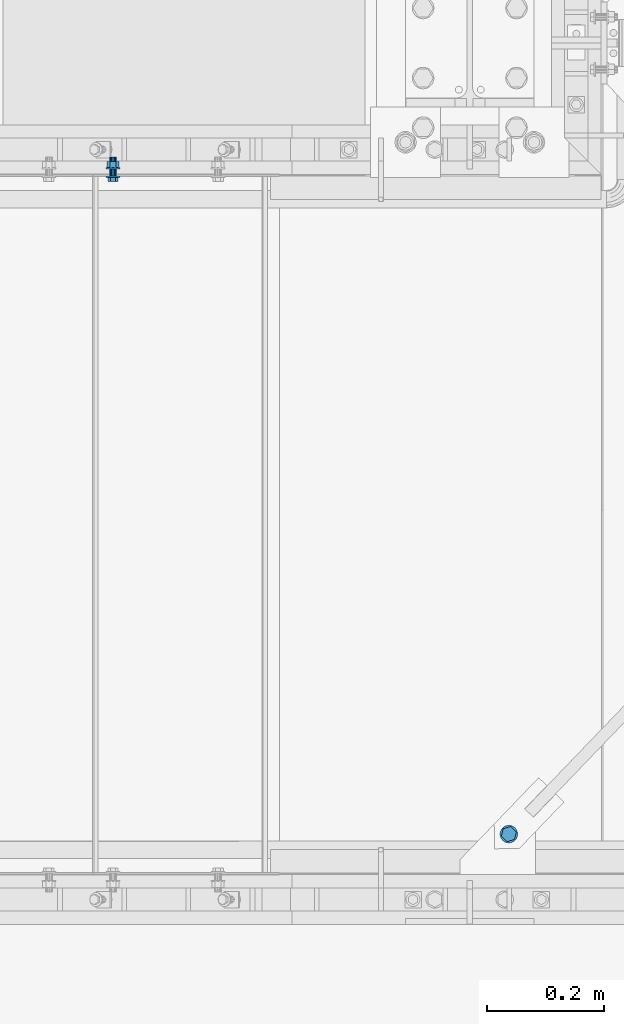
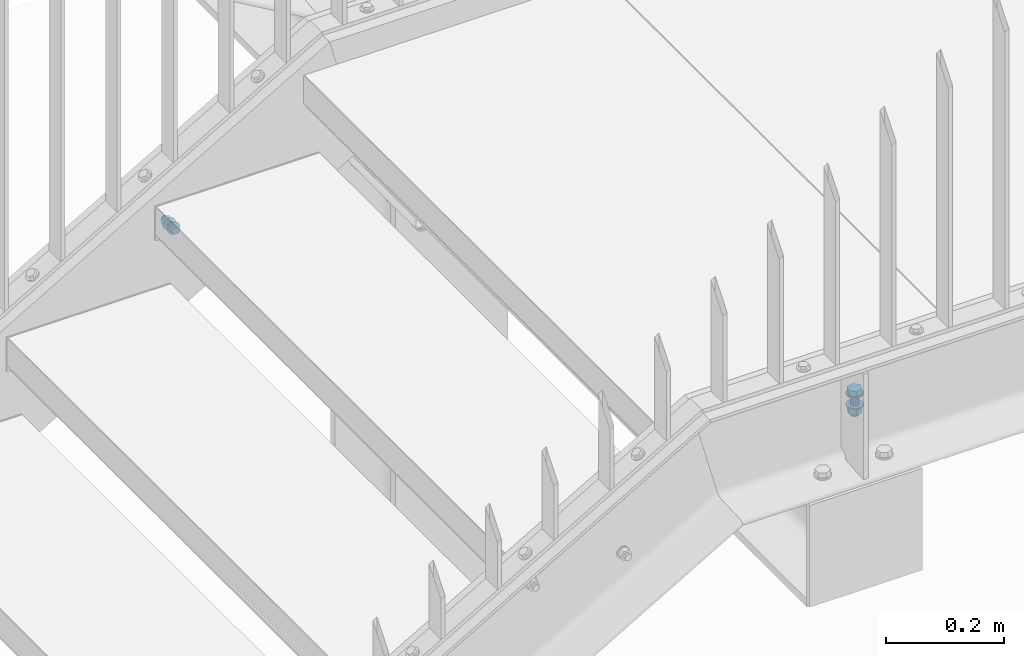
# One storey, part 99 of 145: 2 mechanical fasteners.
"""IFC2X3 building model written with IfcOpenShell, lengths in millimetres."""

from ifc_helpers import new_model, entity, si_unit, converted_unit, origin_with_axes, place, context, project, spatial, faceted_brep, element, save


model = new_model("IFC2X3")

# Units and contexts
model_context = context("Model", 3, precision=1e-09, world=origin_with_axes())
ifc_project = project(units=[si_unit("LENGTHUNIT", "METRE", prefix="MILLI"), si_unit("AREAUNIT", "SQUARE_METRE"), si_unit("VOLUMEUNIT", "CUBIC_METRE"), converted_unit("PLANEANGLEUNIT", "DEGREE", entity("IfcPlaneAngleMeasure", 0.01745329), si_unit("PLANEANGLEUNIT", "RADIAN"), dimensions=[0, 0, 0, 0, 0, 0, 0])], contexts=[model_context])

# Site, building, storey
site_placement = place(None, origin_with_axes())
site = spatial("IfcSite", under=ifc_project, at=site_placement, Name="BZ1 Grund- und Mittelschule 85716 Unterschlei?heim", CompositionType="ELEMENT")
building_placement = place(site_placement, origin_with_axes())
building = spatial("IfcBuilding", under=site, at=building_placement, Name="Struktur 1", CompositionType="ELEMENT")
storey_placement = place(building_placement, origin_with_axes())
storey = spatial("IfcBuildingStorey", under=building, at=storey_placement, Name="Default Storey", CompositionType="ELEMENT", Elevation=0.0)

# Mechanical fasteners
mechanical_fastener_1_placement = place(None, origin_with_axes())
element("IfcMechanicalFastener", 1, at=mechanical_fastener_1_placement, inside=storey, ObjectType="-", NominalDiameter=16.0, NominalLength=45.0, context=model_context, shape_type="Brep", body=[
    faceted_brep([(20267.33343177, -3061.224049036, 1443.6363644), (20267.33343177, -3061.224049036, 1446.6363644), (20265.423222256, -3058.988490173, 1446.6363644), (20265.423222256, -3058.988490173, 1443.6363644), (20263.985852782, -3056.423223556, 1446.6363644), (20263.985852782, -3056.423223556, 1443.6363644), (20263.076560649, -3053.626830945, 1446.6363644), (20263.076560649, -3053.626830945, 1443.6363644), (20262.730289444, -3050.706776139, 1446.6363644), (20262.730289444, -3050.706776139, 1443.6363644), (20262.960346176, -3047.775275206, 1446.6363644), (20262.960346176, -3047.775275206, 1443.6363644), (20263.757889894, -3044.944984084, 1446.6363644), (20263.757889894, -3044.944984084, 1443.6363644), (20265.092271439, -3042.324669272, 1446.6363644), (20265.092271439, -3042.324669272, 1443.6363644), (20266.912211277, -3040.015028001, 1446.6363644), (20266.912211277, -3040.015028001, 1443.6363644), (20269.147770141, -3038.104818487, 1446.6363644), (20269.147770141, -3038.104818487, 1443.6363644), (20271.713036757, -3036.667449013, 1446.6363644), (20271.713036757, -3036.667449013, 1443.6363644), (20274.509429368, -3035.75815688, 1446.6363644), (20274.509429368, -3035.75815688, 1443.6363644), (20277.429484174, -3035.411885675, 1446.6363644), (20277.429484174, -3035.411885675, 1443.6363644), (20280.360985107, -3035.641942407, 1446.6363644), (20280.360985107, -3035.641942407, 1443.6363644), (20283.191276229, -3036.439486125, 1446.6363644), (20283.191276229, -3036.439486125, 1443.6363644), (20285.811591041, -3037.77386767, 1446.6363644), (20285.811591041, -3037.77386767, 1443.6363644), (20288.121232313, -3039.593807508, 1446.6363644), (20288.121232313, -3039.593807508, 1443.6363644), (20290.031441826, -3041.829366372, 1446.6363644), (20290.031441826, -3041.829366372, 1443.6363644), (20291.4688113, -3044.394632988, 1446.6363644), (20291.4688113, -3044.394632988, 1443.6363644), (20292.378103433, -3047.191025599, 1446.6363644), (20292.378103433, -3047.191025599, 1443.6363644), (20292.724374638, -3050.111080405, 1446.6363644), (20292.724374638, -3050.111080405, 1443.6363644), (20292.494317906, -3053.042581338, 1446.6363644), (20292.494317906, -3053.042581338, 1443.6363644), (20291.696774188, -3055.87287246, 1446.6363644), (20291.696774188, -3055.87287246, 1443.6363644), (20290.362392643, -3058.493187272, 1446.6363644), (20290.362392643, -3058.493187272, 1443.6363644), (20288.542452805, -3060.802828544, 1446.6363644), (20288.542452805, -3060.802828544, 1443.6363644), (20286.306893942, -3062.713038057, 1446.6363644), (20286.306893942, -3062.713038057, 1443.6363644), (20283.741627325, -3064.150407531, 1446.6363644), (20283.741627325, -3064.150407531, 1443.6363644), (20280.945234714, -3065.059699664, 1446.6363644), (20280.945234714, -3065.059699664, 1443.6363644), (20278.025179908, -3065.405970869, 1446.6363644), (20278.025179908, -3065.405970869, 1443.6363644), (20275.093678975, -3065.175914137, 1446.6363644), (20275.093678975, -3065.175914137, 1443.6363644), (20272.263387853, -3064.378370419, 1446.6363644), (20272.263387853, -3064.378370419, 1443.6363644), (20269.643073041, -3063.043988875, 1446.6363644), (20269.643073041, -3063.043988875, 1443.6363644)], [[[0, 1, 2, 3]], [[3, 2, 4, 5]], [[5, 4, 6, 7]], [[7, 6, 8, 9]], [[9, 8, 10, 11]], [[11, 10, 12, 13]], [[13, 12, 14, 15]], [[15, 14, 16, 17]], [[17, 16, 18, 19]], [[19, 18, 20, 21]], [[21, 20, 22, 23]], [[23, 22, 24, 25]], [[25, 24, 26, 27]], [[27, 26, 28, 29]], [[29, 28, 30, 31]], [[31, 30, 32, 33]], [[33, 32, 34, 35]], [[35, 34, 36, 37]], [[37, 36, 38, 39]], [[39, 38, 40, 41]], [[41, 40, 42, 43]], [[43, 42, 44, 45]], [[45, 44, 46, 47]], [[47, 46, 48, 49]], [[49, 48, 50, 51]], [[51, 50, 52, 53]], [[53, 52, 54, 55]], [[55, 54, 56, 57]], [[57, 56, 58, 59]], [[59, 58, 60, 61]], [[61, 60, 62, 63]], [[63, 62, 1, 0]], [[2, 1, 62, 60, 58, 56, 54, 52, 50, 48, 46, 44, 42, 40, 38, 36, 34, 32, 30, 28, 26, 24, 22, 20, 18, 16, 14, 12, 10, 8, 6, 4]], [[63, 0, 3, 5, 7, 9, 11, 13, 15, 17, 19, 21, 23, 25, 27, 29, 31, 33, 35, 37, 39, 41, 43, 45, 47, 49, 51, 53, 55, 57, 59, 61]]]),
    faceted_brep([(20280.931822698, -3037.423480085, 1456.6363644), (20280.931822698, -3037.423480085, 1446.6363644), (20268.08384936, -3041.141033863, 1446.6363644), (20268.08384936, -3041.141033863, 1456.6363644), (20264.879358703, -3054.126482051, 1446.6363644), (20264.879358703, -3054.126482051, 1456.6363644), (20274.522841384, -3063.39437646, 1446.6363644), (20274.522841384, -3063.39437646, 1456.6363644), (20287.370814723, -3059.676822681, 1446.6363644), (20287.370814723, -3059.676822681, 1456.6363644), (20290.575305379, -3046.691374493, 1446.6363644), (20290.575305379, -3046.691374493, 1456.6363644)], [[[0, 1, 2, 3]], [[3, 2, 4, 5]], [[5, 4, 6, 7]], [[7, 6, 8, 9]], [[9, 8, 10, 11]], [[11, 10, 1, 0]], [[3, 5, 7, 9, 11, 0]], [[2, 1, 10, 8, 6, 4]]]),
    faceted_brep([(20272.183918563, -3056.17699268, 1423.6363644), (20272.183918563, -3056.17699268, 1443.6363644), (20270.398543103, -3053.616552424, 1443.6363644), (20270.398543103, -3053.616552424, 1423.6363644), (20269.728909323, -3050.567780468, 1443.6363644), (20269.728909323, -3050.567780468, 1423.6363644), (20270.276962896, -3047.494824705, 1443.6363644), (20270.276962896, -3047.494824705, 1423.6363644), (20271.959267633, -3044.865514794, 1443.6363644), (20271.959267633, -3044.865514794, 1423.6363644), (20274.519707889, -3043.080139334, 1443.6363644), (20274.519707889, -3043.080139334, 1423.6363644), (20277.568479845, -3042.410505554, 1443.6363644), (20277.568479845, -3042.410505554, 1423.6363644), (20280.641435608, -3042.958559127, 1443.6363644), (20280.641435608, -3042.958559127, 1423.6363644), (20283.270745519, -3044.640863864, 1443.6363644), (20283.270745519, -3044.640863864, 1423.6363644), (20285.056120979, -3047.201304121, 1443.6363644), (20285.056120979, -3047.201304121, 1423.6363644), (20285.725754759, -3050.250076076, 1443.6363644), (20285.725754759, -3050.250076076, 1423.6363644), (20285.177701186, -3053.323031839, 1443.6363644), (20285.177701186, -3053.323031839, 1423.6363644), (20283.495396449, -3055.95234175, 1443.6363644), (20283.495396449, -3055.95234175, 1423.6363644), (20280.934956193, -3057.73771721, 1443.6363644), (20280.934956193, -3057.73771721, 1423.6363644), (20277.886184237, -3058.40735099, 1443.6363644), (20277.886184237, -3058.40735099, 1423.6363644), (20274.813228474, -3057.859297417, 1443.6363644), (20274.813228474, -3057.859297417, 1423.6363644)], [[[0, 1, 2, 3]], [[3, 2, 4, 5]], [[5, 4, 6, 7]], [[7, 6, 8, 9]], [[9, 8, 10, 11]], [[11, 10, 12, 13]], [[13, 12, 14, 15]], [[15, 14, 16, 17]], [[17, 16, 18, 19]], [[19, 18, 20, 21]], [[21, 20, 22, 23]], [[23, 22, 24, 25]], [[25, 24, 26, 27]], [[27, 26, 28, 29]], [[29, 28, 30, 31]], [[31, 30, 1, 0]], [[2, 1, 30, 28, 26, 24, 22, 20, 18, 16, 14, 12, 10, 8, 6, 4]], [[31, 0, 3, 5, 7, 9, 11, 13, 15, 17, 19, 21, 23, 25, 27, 29]]]),
    faceted_brep([(20267.33343177, -3061.224049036, 1420.6363644), (20267.33343177, -3061.224049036, 1423.6363644), (20265.423222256, -3058.988490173, 1423.6363644), (20265.423222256, -3058.988490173, 1420.6363644), (20263.985852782, -3056.423223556, 1423.6363644), (20263.985852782, -3056.423223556, 1420.6363644), (20263.076560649, -3053.626830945, 1423.6363644), (20263.076560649, -3053.626830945, 1420.6363644), (20262.730289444, -3050.706776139, 1423.6363644), (20262.730289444, -3050.706776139, 1420.6363644), (20262.960346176, -3047.775275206, 1423.6363644), (20262.960346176, -3047.775275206, 1420.6363644), (20263.757889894, -3044.944984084, 1423.6363644), (20263.757889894, -3044.944984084, 1420.6363644), (20265.092271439, -3042.324669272, 1423.6363644), (20265.092271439, -3042.324669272, 1420.6363644), (20266.912211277, -3040.015028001, 1423.6363644), (20266.912211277, -3040.015028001, 1420.6363644), (20269.147770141, -3038.104818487, 1423.6363644), (20269.147770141, -3038.104818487, 1420.6363644), (20271.713036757, -3036.667449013, 1423.6363644), (20271.713036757, -3036.667449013, 1420.6363644), (20274.509429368, -3035.75815688, 1423.6363644), (20274.509429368, -3035.75815688, 1420.6363644), (20277.429484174, -3035.411885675, 1423.6363644), (20277.429484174, -3035.411885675, 1420.6363644), (20280.360985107, -3035.641942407, 1423.6363644), (20280.360985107, -3035.641942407, 1420.6363644), (20283.191276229, -3036.439486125, 1423.6363644), (20283.191276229, -3036.439486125, 1420.6363644), (20285.811591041, -3037.77386767, 1423.6363644), (20285.811591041, -3037.77386767, 1420.6363644), (20288.121232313, -3039.593807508, 1423.6363644), (20288.121232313, -3039.593807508, 1420.6363644), (20290.031441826, -3041.829366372, 1423.6363644), (20290.031441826, -3041.829366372, 1420.6363644), (20291.4688113, -3044.394632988, 1423.6363644), (20291.4688113, -3044.394632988, 1420.6363644), (20292.378103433, -3047.191025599, 1423.6363644), (20292.378103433, -3047.191025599, 1420.6363644), (20292.724374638, -3050.111080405, 1423.6363644), (20292.724374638, -3050.111080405, 1420.6363644), (20292.494317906, -3053.042581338, 1423.6363644), (20292.494317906, -3053.042581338, 1420.6363644), (20291.696774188, -3055.87287246, 1423.6363644), (20291.696774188, -3055.87287246, 1420.6363644), (20290.362392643, -3058.493187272, 1423.6363644), (20290.362392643, -3058.493187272, 1420.6363644), (20288.542452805, -3060.802828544, 1423.6363644), (20288.542452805, -3060.802828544, 1420.6363644), (20286.306893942, -3062.713038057, 1423.6363644), (20286.306893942, -3062.713038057, 1420.6363644), (20283.741627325, -3064.150407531, 1423.6363644), (20283.741627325, -3064.150407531, 1420.6363644), (20280.945234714, -3065.059699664, 1423.6363644), (20280.945234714, -3065.059699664, 1420.6363644), (20278.025179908, -3065.405970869, 1423.6363644), (20278.025179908, -3065.405970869, 1420.6363644), (20275.093678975, -3065.175914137, 1423.6363644), (20275.093678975, -3065.175914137, 1420.6363644), (20272.263387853, -3064.378370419, 1423.6363644), (20272.263387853, -3064.378370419, 1420.6363644), (20269.643073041, -3063.043988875, 1423.6363644), (20269.643073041, -3063.043988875, 1420.6363644)], [[[0, 1, 2, 3]], [[3, 2, 4, 5]], [[5, 4, 6, 7]], [[7, 6, 8, 9]], [[9, 8, 10, 11]], [[11, 10, 12, 13]], [[13, 12, 14, 15]], [[15, 14, 16, 17]], [[17, 16, 18, 19]], [[19, 18, 20, 21]], [[21, 20, 22, 23]], [[23, 22, 24, 25]], [[25, 24, 26, 27]], [[27, 26, 28, 29]], [[29, 28, 30, 31]], [[31, 30, 32, 33]], [[33, 32, 34, 35]], [[35, 34, 36, 37]], [[37, 36, 38, 39]], [[39, 38, 40, 41]], [[41, 40, 42, 43]], [[43, 42, 44, 45]], [[45, 44, 46, 47]], [[47, 46, 48, 49]], [[49, 48, 50, 51]], [[51, 50, 52, 53]], [[53, 52, 54, 55]], [[55, 54, 56, 57]], [[57, 56, 58, 59]], [[59, 58, 60, 61]], [[61, 60, 62, 63]], [[63, 62, 1, 0]], [[2, 1, 62, 60, 58, 56, 54, 52, 50, 48, 46, 44, 42, 40, 38, 36, 34, 32, 30, 28, 26, 24, 22, 20, 18, 16, 14, 12, 10, 8, 6, 4]], [[63, 0, 3, 5, 7, 9, 11, 13, 15, 17, 19, 21, 23, 25, 27, 29, 31, 33, 35, 37, 39, 41, 43, 45, 47, 49, 51, 53, 55, 57, 59, 61]]]),
    faceted_brep([(20280.931822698, -3037.423480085, 1420.6363644), (20280.931822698, -3037.423480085, 1407.6363644), (20268.08384936, -3041.141033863, 1407.6363644), (20268.08384936, -3041.141033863, 1420.6363644), (20264.879358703, -3054.126482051, 1407.6363644), (20264.879358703, -3054.126482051, 1420.6363644), (20274.522841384, -3063.39437646, 1407.6363644), (20274.522841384, -3063.39437646, 1420.6363644), (20287.370814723, -3059.676822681, 1407.6363644), (20287.370814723, -3059.676822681, 1420.6363644), (20290.575305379, -3046.691374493, 1407.6363644), (20290.575305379, -3046.691374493, 1420.6363644)], [[[0, 1, 2, 3]], [[3, 2, 4, 5]], [[5, 4, 6, 7]], [[7, 6, 8, 9]], [[9, 8, 10, 11]], [[11, 10, 1, 0]], [[3, 5, 7, 9, 11, 0]], [[2, 1, 10, 8, 6, 4]]]),
    faceted_brep([(20272.183918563, -3056.17699268, 1401.6363644), (20272.183918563, -3056.17699268, 1407.6363644), (20270.398543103, -3053.616552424, 1407.6363644), (20270.398543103, -3053.616552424, 1401.6363644), (20269.728909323, -3050.567780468, 1407.6363644), (20269.728909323, -3050.567780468, 1401.6363644), (20270.276962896, -3047.494824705, 1407.6363644), (20270.276962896, -3047.494824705, 1401.6363644), (20271.959267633, -3044.865514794, 1407.6363644), (20271.959267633, -3044.865514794, 1401.6363644), (20274.519707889, -3043.080139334, 1407.6363644), (20274.519707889, -3043.080139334, 1401.6363644), (20277.568479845, -3042.410505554, 1407.6363644), (20277.568479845, -3042.410505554, 1401.6363644), (20280.641435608, -3042.958559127, 1407.6363644), (20280.641435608, -3042.958559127, 1401.6363644), (20283.270745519, -3044.640863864, 1407.6363644), (20283.270745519, -3044.640863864, 1401.6363644), (20285.056120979, -3047.201304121, 1407.6363644), (20285.056120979, -3047.201304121, 1401.6363644), (20285.725754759, -3050.250076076, 1407.6363644), (20285.725754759, -3050.250076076, 1401.6363644), (20285.177701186, -3053.323031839, 1407.6363644), (20285.177701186, -3053.323031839, 1401.6363644), (20283.495396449, -3055.95234175, 1407.6363644), (20283.495396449, -3055.95234175, 1401.6363644), (20280.934956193, -3057.73771721, 1407.6363644), (20280.934956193, -3057.73771721, 1401.6363644), (20277.886184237, -3058.40735099, 1407.6363644), (20277.886184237, -3058.40735099, 1401.6363644), (20274.813228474, -3057.859297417, 1407.6363644), (20274.813228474, -3057.859297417, 1401.6363644)], [[[0, 1, 2, 3]], [[3, 2, 4, 5]], [[5, 4, 6, 7]], [[7, 6, 8, 9]], [[9, 8, 10, 11]], [[11, 10, 12, 13]], [[13, 12, 14, 15]], [[15, 14, 16, 17]], [[17, 16, 18, 19]], [[19, 18, 20, 21]], [[21, 20, 22, 23]], [[23, 22, 24, 25]], [[25, 24, 26, 27]], [[27, 26, 28, 29]], [[29, 28, 30, 31]], [[31, 30, 1, 0]], [[2, 1, 30, 28, 26, 24, 22, 20, 18, 16, 14, 12, 10, 8, 6, 4]], [[31, 0, 3, 5, 7, 9, 11, 13, 15, 17, 19, 21, 23, 25, 27, 29]]]),
])
mechanical_fastener_2_placement = place(None, origin_with_axes())
element("IfcMechanicalFastener", 2, at=mechanical_fastener_2_placement, inside=storey, ObjectType="-", NominalDiameter=12.0, NominalLength=35.0, context=model_context, shape_type="Brep", body=[
    faceted_brep([(19599.545399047, -1923.002, 1328.000000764), (19599.545399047, -1925.502, 1328.000000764), (19597.204315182, -1925.502, 1328.230577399), (19597.204315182, -1923.002, 1328.230577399), (19594.953197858, -1925.502, 1328.913446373), (19594.953197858, -1923.002, 1328.913446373), (19592.87855625, -1925.502, 1330.022365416), (19592.87855625, -1923.002, 1330.022365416), (19591.060117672, -1925.502, 1331.514719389), (19591.060117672, -1923.002, 1331.514719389), (19589.567763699, -1925.502, 1333.333157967), (19589.567763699, -1923.002, 1333.333157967), (19588.458844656, -1925.502, 1335.407799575), (19588.458844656, -1923.002, 1335.407799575), (19587.775975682, -1925.502, 1337.658916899), (19587.775975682, -1923.002, 1337.658916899), (19587.545399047, -1925.502, 1340.000000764), (19587.545399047, -1923.002, 1340.000000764), (19587.775975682, -1925.502, 1342.341084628), (19587.775975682, -1923.002, 1342.341084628), (19588.458844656, -1925.502, 1344.592201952), (19588.458844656, -1923.002, 1344.592201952), (19589.567763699, -1925.502, 1346.66684356), (19589.567763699, -1923.002, 1346.66684356), (19591.060117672, -1925.502, 1348.485282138), (19591.060117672, -1923.002, 1348.485282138), (19592.87855625, -1925.502, 1349.977636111), (19592.87855625, -1923.002, 1349.977636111), (19594.953197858, -1925.502, 1351.086555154), (19594.953197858, -1923.002, 1351.086555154), (19597.204315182, -1925.502, 1351.769424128), (19597.204315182, -1923.002, 1351.769424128), (19599.545399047, -1925.502, 1352.000000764), (19599.545399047, -1923.002, 1352.000000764), (19601.886482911, -1925.502, 1351.769424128), (19601.886482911, -1923.002, 1351.769424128), (19604.137600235, -1925.502, 1351.086555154), (19604.137600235, -1923.002, 1351.086555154), (19606.212241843, -1925.502, 1349.977636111), (19606.212241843, -1923.002, 1349.977636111), (19608.030680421, -1925.502, 1348.485282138), (19608.030680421, -1923.002, 1348.485282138), (19609.523034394, -1925.502, 1346.66684356), (19609.523034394, -1923.002, 1346.66684356), (19610.631953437, -1925.502, 1344.592201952), (19610.631953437, -1923.002, 1344.592201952), (19611.314822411, -1925.502, 1342.341084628), (19611.314822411, -1923.002, 1342.341084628), (19611.545399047, -1925.502, 1340.000000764), (19611.545399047, -1923.002, 1340.000000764), (19611.314822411, -1925.502, 1337.658916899), (19611.314822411, -1923.002, 1337.658916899), (19610.631953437, -1925.502, 1335.407799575), (19610.631953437, -1923.002, 1335.407799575), (19609.523034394, -1925.502, 1333.333157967), (19609.523034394, -1923.002, 1333.333157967), (19608.030680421, -1925.502, 1331.514719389), (19608.030680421, -1923.002, 1331.514719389), (19606.212241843, -1925.502, 1330.022365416), (19606.212241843, -1923.002, 1330.022365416), (19604.137600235, -1925.502, 1328.913446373), (19604.137600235, -1923.002, 1328.913446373), (19601.886482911, -1925.502, 1328.230577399), (19601.886482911, -1923.002, 1328.230577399)], [[[0, 1, 2, 3]], [[3, 2, 4, 5]], [[5, 4, 6, 7]], [[7, 6, 8, 9]], [[9, 8, 10, 11]], [[11, 10, 12, 13]], [[13, 12, 14, 15]], [[15, 14, 16, 17]], [[17, 16, 18, 19]], [[19, 18, 20, 21]], [[21, 20, 22, 23]], [[23, 22, 24, 25]], [[25, 24, 26, 27]], [[27, 26, 28, 29]], [[29, 28, 30, 31]], [[31, 30, 32, 33]], [[33, 32, 34, 35]], [[35, 34, 36, 37]], [[37, 36, 38, 39]], [[39, 38, 40, 41]], [[41, 40, 42, 43]], [[43, 42, 44, 45]], [[45, 44, 46, 47]], [[47, 46, 48, 49]], [[49, 48, 50, 51]], [[51, 50, 52, 53]], [[53, 52, 54, 55]], [[55, 54, 56, 57]], [[57, 56, 58, 59]], [[59, 58, 60, 61]], [[61, 60, 62, 63]], [[63, 62, 1, 0]], [[2, 1, 62, 60, 58, 56, 54, 52, 50, 48, 46, 44, 42, 40, 38, 36, 34, 32, 30, 28, 26, 24, 22, 20, 18, 16, 14, 12, 10, 8, 6, 4]], [[63, 0, 3, 5, 7, 9, 11, 13, 15, 17, 19, 21, 23, 25, 27, 29, 31, 33, 35, 37, 39, 41, 43, 45, 47, 49, 51, 53, 55, 57, 59, 61]]]),
    faceted_brep([(19595.102899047, -1931.902, 1347.694636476), (19595.102899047, -1925.502, 1347.694636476), (19590.660399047, -1925.502, 1340.000000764), (19590.660399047, -1931.902, 1340.000000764), (19595.102899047, -1925.502, 1332.305365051), (19595.102899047, -1931.902, 1332.305365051), (19603.987899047, -1925.502, 1332.305365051), (19603.987899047, -1931.902, 1332.305365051), (19608.430399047, -1925.502, 1340.000000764), (19608.430399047, -1931.902, 1340.000000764), (19603.987899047, -1925.502, 1347.694636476), (19603.987899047, -1931.902, 1347.694636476)], [[[0, 1, 2, 3]], [[3, 2, 4, 5]], [[5, 4, 6, 7]], [[7, 6, 8, 9]], [[9, 8, 10, 11]], [[11, 10, 1, 0]], [[3, 5, 7, 9, 11, 0]], [[2, 1, 10, 8, 6, 4]]]),
    faceted_brep([(19599.545399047, -1910.502, 1334.000000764), (19599.545399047, -1923.002, 1334.000000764), (19597.249298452, -1923.002, 1334.456723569), (19597.249298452, -1910.502, 1334.456723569), (19595.30275836, -1923.002, 1335.757360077), (19595.30275836, -1910.502, 1335.757360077), (19594.002121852, -1923.002, 1337.703900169), (19594.002121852, -1910.502, 1337.703900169), (19593.545399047, -1923.002, 1340.000000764), (19593.545399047, -1910.502, 1340.000000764), (19594.002121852, -1923.002, 1342.296101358), (19594.002121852, -1910.502, 1342.296101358), (19595.30275836, -1923.002, 1344.242641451), (19595.30275836, -1910.502, 1344.242641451), (19597.249298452, -1923.002, 1345.543277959), (19597.249298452, -1910.502, 1345.543277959), (19599.545399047, -1923.002, 1346.000000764), (19599.545399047, -1910.502, 1346.000000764), (19601.841499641, -1923.002, 1345.543277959), (19601.841499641, -1910.502, 1345.543277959), (19603.788039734, -1923.002, 1344.242641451), (19603.788039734, -1910.502, 1344.242641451), (19605.088676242, -1923.002, 1342.296101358), (19605.088676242, -1910.502, 1342.296101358), (19605.545399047, -1923.002, 1340.000000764), (19605.545399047, -1910.502, 1340.000000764), (19605.088676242, -1923.002, 1337.703900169), (19605.088676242, -1910.502, 1337.703900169), (19603.788039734, -1923.002, 1335.757360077), (19603.788039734, -1910.502, 1335.757360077), (19601.841499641, -1923.002, 1334.456723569), (19601.841499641, -1910.502, 1334.456723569)], [[[0, 1, 2, 3]], [[3, 2, 4, 5]], [[5, 4, 6, 7]], [[7, 6, 8, 9]], [[9, 8, 10, 11]], [[11, 10, 12, 13]], [[13, 12, 14, 15]], [[15, 14, 16, 17]], [[17, 16, 18, 19]], [[19, 18, 20, 21]], [[21, 20, 22, 23]], [[23, 22, 24, 25]], [[25, 24, 26, 27]], [[27, 26, 28, 29]], [[29, 28, 30, 31]], [[31, 30, 1, 0]], [[2, 1, 30, 28, 26, 24, 22, 20, 18, 16, 14, 12, 10, 8, 6, 4]], [[31, 0, 3, 5, 7, 9, 11, 13, 15, 17, 19, 21, 23, 25, 27, 29]]]),
    faceted_brep([(19599.545399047, -1908.002, 1328.000000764), (19599.545399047, -1910.502, 1328.000000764), (19597.204315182, -1910.502, 1328.230577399), (19597.204315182, -1908.002, 1328.230577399), (19594.953197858, -1910.502, 1328.913446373), (19594.953197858, -1908.002, 1328.913446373), (19592.87855625, -1910.502, 1330.022365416), (19592.87855625, -1908.002, 1330.022365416), (19591.060117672, -1910.502, 1331.514719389), (19591.060117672, -1908.002, 1331.514719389), (19589.567763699, -1910.502, 1333.333157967), (19589.567763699, -1908.002, 1333.333157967), (19588.458844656, -1910.502, 1335.407799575), (19588.458844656, -1908.002, 1335.407799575), (19587.775975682, -1910.502, 1337.658916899), (19587.775975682, -1908.002, 1337.658916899), (19587.545399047, -1910.502, 1340.000000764), (19587.545399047, -1908.002, 1340.000000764), (19587.775975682, -1910.502, 1342.341084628), (19587.775975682, -1908.002, 1342.341084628), (19588.458844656, -1910.502, 1344.592201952), (19588.458844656, -1908.002, 1344.592201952), (19589.567763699, -1910.502, 1346.66684356), (19589.567763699, -1908.002, 1346.66684356), (19591.060117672, -1910.502, 1348.485282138), (19591.060117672, -1908.002, 1348.485282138), (19592.87855625, -1910.502, 1349.977636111), (19592.87855625, -1908.002, 1349.977636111), (19594.953197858, -1910.502, 1351.086555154), (19594.953197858, -1908.002, 1351.086555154), (19597.204315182, -1910.502, 1351.769424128), (19597.204315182, -1908.002, 1351.769424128), (19599.545399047, -1910.502, 1352.000000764), (19599.545399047, -1908.002, 1352.000000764), (19601.886482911, -1910.502, 1351.769424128), (19601.886482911, -1908.002, 1351.769424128), (19604.137600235, -1910.502, 1351.086555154), (19604.137600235, -1908.002, 1351.086555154), (19606.212241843, -1910.502, 1349.977636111), (19606.212241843, -1908.002, 1349.977636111), (19608.030680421, -1910.502, 1348.485282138), (19608.030680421, -1908.002, 1348.485282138), (19609.523034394, -1910.502, 1346.66684356), (19609.523034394, -1908.002, 1346.66684356), (19610.631953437, -1910.502, 1344.592201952), (19610.631953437, -1908.002, 1344.592201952), (19611.314822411, -1910.502, 1342.341084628), (19611.314822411, -1908.002, 1342.341084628), (19611.545399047, -1910.502, 1340.000000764), (19611.545399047, -1908.002, 1340.000000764), (19611.314822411, -1910.502, 1337.658916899), (19611.314822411, -1908.002, 1337.658916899), (19610.631953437, -1910.502, 1335.407799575), (19610.631953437, -1908.002, 1335.407799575), (19609.523034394, -1910.502, 1333.333157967), (19609.523034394, -1908.002, 1333.333157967), (19608.030680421, -1910.502, 1331.514719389), (19608.030680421, -1908.002, 1331.514719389), (19606.212241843, -1910.502, 1330.022365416), (19606.212241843, -1908.002, 1330.022365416), (19604.137600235, -1910.502, 1328.913446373), (19604.137600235, -1908.002, 1328.913446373), (19601.886482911, -1910.502, 1328.230577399), (19601.886482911, -1908.002, 1328.230577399)], [[[0, 1, 2, 3]], [[3, 2, 4, 5]], [[5, 4, 6, 7]], [[7, 6, 8, 9]], [[9, 8, 10, 11]], [[11, 10, 12, 13]], [[13, 12, 14, 15]], [[15, 14, 16, 17]], [[17, 16, 18, 19]], [[19, 18, 20, 21]], [[21, 20, 22, 23]], [[23, 22, 24, 25]], [[25, 24, 26, 27]], [[27, 26, 28, 29]], [[29, 28, 30, 31]], [[31, 30, 32, 33]], [[33, 32, 34, 35]], [[35, 34, 36, 37]], [[37, 36, 38, 39]], [[39, 38, 40, 41]], [[41, 40, 42, 43]], [[43, 42, 44, 45]], [[45, 44, 46, 47]], [[47, 46, 48, 49]], [[49, 48, 50, 51]], [[51, 50, 52, 53]], [[53, 52, 54, 55]], [[55, 54, 56, 57]], [[57, 56, 58, 59]], [[59, 58, 60, 61]], [[61, 60, 62, 63]], [[63, 62, 1, 0]], [[2, 1, 62, 60, 58, 56, 54, 52, 50, 48, 46, 44, 42, 40, 38, 36, 34, 32, 30, 28, 26, 24, 22, 20, 18, 16, 14, 12, 10, 8, 6, 4]], [[63, 0, 3, 5, 7, 9, 11, 13, 15, 17, 19, 21, 23, 25, 27, 29, 31, 33, 35, 37, 39, 41, 43, 45, 47, 49, 51, 53, 55, 57, 59, 61]]]),
    faceted_brep([(19594.270399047, -1908.002, 1349.136568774), (19594.270399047, -1898.002, 1349.136568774), (19588.995399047, -1898.002, 1340.000000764), (19588.995399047, -1908.002, 1340.000000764), (19594.270399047, -1898.002, 1330.863432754), (19594.270399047, -1908.002, 1330.863432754), (19604.820399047, -1898.002, 1330.863432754), (19604.820399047, -1908.002, 1330.863432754), (19610.095399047, -1898.002, 1340.000000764), (19610.095399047, -1908.002, 1340.000000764), (19604.820399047, -1898.002, 1349.136568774), (19604.820399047, -1908.002, 1349.136568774)], [[[0, 1, 2, 3]], [[3, 2, 4, 5]], [[5, 4, 6, 7]], [[7, 6, 8, 9]], [[9, 8, 10, 11]], [[11, 10, 1, 0]], [[3, 5, 7, 9, 11, 0]], [[2, 1, 10, 8, 6, 4]]]),
    faceted_brep([(19599.545399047, -1890.502, 1334.000000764), (19599.545399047, -1898.002, 1334.000000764), (19597.249298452, -1898.002, 1334.456723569), (19597.249298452, -1890.502, 1334.456723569), (19595.30275836, -1898.002, 1335.757360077), (19595.30275836, -1890.502, 1335.757360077), (19594.002121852, -1898.002, 1337.703900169), (19594.002121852, -1890.502, 1337.703900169), (19593.545399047, -1898.002, 1340.000000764), (19593.545399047, -1890.502, 1340.000000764), (19594.002121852, -1898.002, 1342.296101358), (19594.002121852, -1890.502, 1342.296101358), (19595.30275836, -1898.002, 1344.242641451), (19595.30275836, -1890.502, 1344.242641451), (19597.249298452, -1898.002, 1345.543277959), (19597.249298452, -1890.502, 1345.543277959), (19599.545399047, -1898.002, 1346.000000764), (19599.545399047, -1890.502, 1346.000000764), (19601.841499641, -1898.002, 1345.543277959), (19601.841499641, -1890.502, 1345.543277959), (19603.788039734, -1898.002, 1344.242641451), (19603.788039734, -1890.502, 1344.242641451), (19605.088676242, -1898.002, 1342.296101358), (19605.088676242, -1890.502, 1342.296101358), (19605.545399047, -1898.002, 1340.000000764), (19605.545399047, -1890.502, 1340.000000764), (19605.088676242, -1898.002, 1337.703900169), (19605.088676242, -1890.502, 1337.703900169), (19603.788039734, -1898.002, 1335.757360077), (19603.788039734, -1890.502, 1335.757360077), (19601.841499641, -1898.002, 1334.456723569), (19601.841499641, -1890.502, 1334.456723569)], [[[0, 1, 2, 3]], [[3, 2, 4, 5]], [[5, 4, 6, 7]], [[7, 6, 8, 9]], [[9, 8, 10, 11]], [[11, 10, 12, 13]], [[13, 12, 14, 15]], [[15, 14, 16, 17]], [[17, 16, 18, 19]], [[19, 18, 20, 21]], [[21, 20, 22, 23]], [[23, 22, 24, 25]], [[25, 24, 26, 27]], [[27, 26, 28, 29]], [[29, 28, 30, 31]], [[31, 30, 1, 0]], [[2, 1, 30, 28, 26, 24, 22, 20, 18, 16, 14, 12, 10, 8, 6, 4]], [[31, 0, 3, 5, 7, 9, 11, 13, 15, 17, 19, 21, 23, 25, 27, 29]]]),
])

save(model, "model.ifc")
